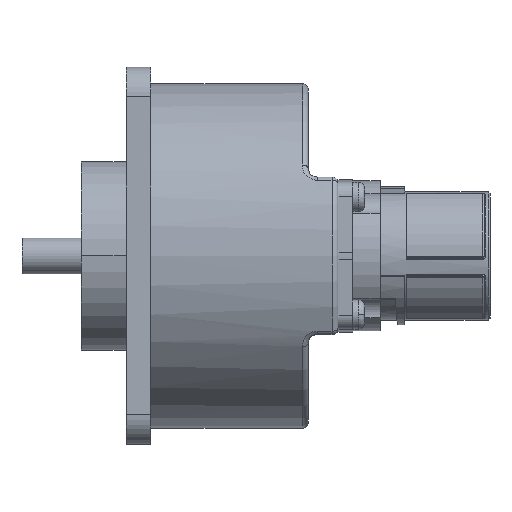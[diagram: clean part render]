
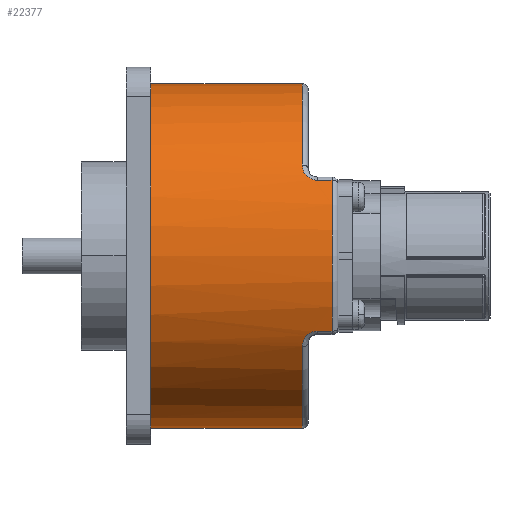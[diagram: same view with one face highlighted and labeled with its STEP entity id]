
A CAD part, top view. The second image highlights one B-rep face of the part: STEP entity #22377.
In plain terms, the highlighted cylindrical face has radius 29 mm (diameter 58 mm), a partial arc.
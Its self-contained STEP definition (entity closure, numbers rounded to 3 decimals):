
#47 = LINE ( 'NONE', #12516, #11815 ) ;
#410 = ORIENTED_EDGE ( 'NONE', *, *, #21523, .T. ) ;
#461 = CARTESIAN_POINT ( 'NONE',  ( 33.568, 10.146, 24.65 ) ) ;
#544 = CARTESIAN_POINT ( 'NONE',  ( 35.187, 12.576, 25.999 ) ) ;
#799 = DIRECTION ( 'NONE',  ( -1., 0., 0. ) ) ;
#810 = CARTESIAN_POINT ( 'NONE',  ( 33.568, 40.393, 24.84 ) ) ;
#1457 = CIRCLE ( 'NONE', #22336, 29. ) ;
#1746 = DIRECTION ( 'NONE',  ( 1., 0., 0. ) ) ;
#2187 = CARTESIAN_POINT ( 'NONE',  ( 33.568, 10.146, 24.65 ) ) ;
#2305 = B_SPLINE_CURVE_WITH_KNOTS ( 'NONE', 3,
 ( #2187, #20047, #4062, #16431, #7796, #14669, #5804, #14911, #21784, #6045, #11168, #544, #7674, #14782, #23049, #15273 ),
 .UNSPECIFIED., .F., .F.,
 ( 4, 2, 2, 2, 2, 2, 2, 4 ),
 ( 0., 0.001, 0.002, 0.002, 0.003, 0.003, 0.004, 0.004 ),
 .UNSPECIFIED. ) ;
#2562 = VERTEX_POINT ( 'NONE', #14933 ) ;
#2815 = DIRECTION ( 'NONE',  ( -1., 0., 0. ) ) ;
#2820 = DIRECTION ( 'NONE',  ( 1., 0., 0. ) ) ;
#2923 = CARTESIAN_POINT ( 'NONE',  ( 34.33, 38.831, 25.715 ) ) ;
#3039 = EDGE_CURVE ( 'NONE', #16220, #9810, #47, .T. ) ;
#3046 = DIRECTION ( 'NONE',  ( 0., 1., 0. ) ) ;
#3143 = CARTESIAN_POINT ( 'NONE',  ( 33.619, 40.088, 25.021 ) ) ;
#3304 = CARTESIAN_POINT ( 'NONE',  ( 36.068, 38.111, 26.077 ) ) ;
#3323 = AXIS2_PLACEMENT_3D ( 'NONE', #6547, #4910, #3046 ) ;
#3652 = AXIS2_PLACEMENT_3D ( 'NONE', #11288, #799, #18427 ) ;
#4062 = CARTESIAN_POINT ( 'NONE',  ( 33.619, 10.756, 25.02 ) ) ;
#4308 = VERTEX_POINT ( 'NONE', #6941 ) ;
#4429 = ORIENTED_EDGE ( 'NONE', *, *, #18280, .F. ) ;
#4910 = DIRECTION ( 'NONE',  ( -1., 0., 0. ) ) ;
#4934 = DIRECTION ( 'NONE',  ( -1., 0., 0. ) ) ;
#5143 = AXIS2_PLACEMENT_3D ( 'NONE', #14001, #6895, #10268 ) ;
#5348 = VERTEX_POINT ( 'NONE', #13373 ) ;
#5357 = ORIENTED_EDGE ( 'NONE', *, *, #3039, .T. ) ;
#5804 = CARTESIAN_POINT ( 'NONE',  ( 34.106, 11.76, 25.58 ) ) ;
#5923 = VERTEX_POINT ( 'NONE', #461 ) ;
#6045 = CARTESIAN_POINT ( 'NONE',  ( 34.722, 12.336, 25.879 ) ) ;
#6093 = CARTESIAN_POINT ( 'NONE',  ( 38.568, 38.111, 26.077 ) ) ;
#6547 = CARTESIAN_POINT ( 'NONE',  ( 33.568, 25.423, 0. ) ) ;
#6895 = DIRECTION ( 'NONE',  ( -1., 0., 0. ) ) ;
#6921 = ORIENTED_EDGE ( 'NONE', *, *, #22015, .T. ) ;
#6941 = CARTESIAN_POINT ( 'NONE',  ( 8.068, 54.423, 0. ) ) ;
#7674 = CARTESIAN_POINT ( 'NONE',  ( 35.358, 12.636, 26.029 ) ) ;
#7796 = CARTESIAN_POINT ( 'NONE',  ( 33.848, 11.348, 25.356 ) ) ;
#8170 = CARTESIAN_POINT ( 'NONE',  ( 34.11, 39.081, 25.583 ) ) ;
#8213 = CARTESIAN_POINT ( 'NONE',  ( 33.568, 40.7, 24.65 ) ) ;
#8387 = VERTEX_POINT ( 'NONE', #16170 ) ;
#8404 = VERTEX_POINT ( 'NONE', #21753 ) ;
#8538 = CYLINDRICAL_SURFACE ( 'NONE', #19693, 29. ) ;
#8756 = CARTESIAN_POINT ( 'NONE',  ( 34.568, 25.423, 0. ) ) ;
#9561 = LINE ( 'NONE', #18808, #17237 ) ;
#9678 = ORIENTED_EDGE ( 'NONE', *, *, #19368, .T. ) ;
#9787 = CARTESIAN_POINT ( 'NONE',  ( 34.727, 38.507, 25.881 ) ) ;
#9810 = VERTEX_POINT ( 'NONE', #3304 ) ;
#9932 = ORIENTED_EDGE ( 'NONE', *, *, #21289, .T. ) ;
#10036 = EDGE_CURVE ( 'NONE', #8404, #4308, #9561, .T. ) ;
#10256 = CARTESIAN_POINT ( 'NONE',  ( 35.71, 38.131, 26.068 ) ) ;
#10268 = DIRECTION ( 'NONE',  ( 0., 1., 0. ) ) ;
#10287 = FACE_OUTER_BOUND ( 'NONE', #12235, .T. ) ;
#11060 = EDGE_CURVE ( 'NONE', #4308, #5348, #1457, .T. ) ;
#11168 = CARTESIAN_POINT ( 'NONE',  ( 34.869, 12.426, 25.924 ) ) ;
#11247 = LINE ( 'NONE', #12882, #20784 ) ;
#11288 = CARTESIAN_POINT ( 'NONE',  ( 38.568, 25.423, 0. ) ) ;
#11815 = VECTOR ( 'NONE', #12173, 1000. ) ;
#12025 = DIRECTION ( 'NONE',  ( 0., 1., 0. ) ) ;
#12173 = DIRECTION ( 'NONE',  ( -1., 0., 0. ) ) ;
#12235 = EDGE_LOOP ( 'NONE', ( #9678, #16950, #16079, #4429, #13274, #6921, #9932, #410, #5357, #14944 ) ) ;
#12516 = CARTESIAN_POINT ( 'NONE',  ( 34.568, 38.111, 26.077 ) ) ;
#12882 = CARTESIAN_POINT ( 'NONE',  ( 34.568, -3.577, 0. ) ) ;
#13274 = ORIENTED_EDGE ( 'NONE', *, *, #22769, .T. ) ;
#13373 = CARTESIAN_POINT ( 'NONE',  ( 8.068, -3.577, 0. ) ) ;
#13427 = CARTESIAN_POINT ( 'NONE',  ( 33.782, 39.64, 25.277 ) ) ;
#13773 = CARTESIAN_POINT ( 'NONE',  ( 35.363, 38.209, 26.029 ) ) ;
#14001 = CARTESIAN_POINT ( 'NONE',  ( 33.568, 25.423, 0. ) ) ;
#14669 = CARTESIAN_POINT ( 'NONE',  ( 34.011, 11.627, 25.509 ) ) ;
#14782 = CARTESIAN_POINT ( 'NONE',  ( 35.705, 12.715, 26.067 ) ) ;
#14911 = CARTESIAN_POINT ( 'NONE',  ( 34.324, 12.01, 25.712 ) ) ;
#14933 = CARTESIAN_POINT ( 'NONE',  ( 38.568, 12.736, 26.077 ) ) ;
#14944 = ORIENTED_EDGE ( 'NONE', *, *, #17608, .T. ) ;
#15170 = CARTESIAN_POINT ( 'NONE',  ( 36.068, 38.111, 26.077 ) ) ;
#15189 = VERTEX_POINT ( 'NONE', #8213 ) ;
#15200 = CIRCLE ( 'NONE', #5143, 29. ) ;
#15255 = B_SPLINE_CURVE_WITH_KNOTS ( 'NONE', 3,
 ( #15170, #22167, #10256, #13773, #22522, #22294, #9787, #15519, #2923, #8170, #20891, #20423, #13427, #3143, #810, #20662 ),
 .UNSPECIFIED., .F., .F.,
 ( 4, 2, 2, 2, 2, 2, 2, 4 ),
 ( 0., 0.001, 0.001, 0.002, 0.002, 0.003, 0.003, 0.004 ),
 .UNSPECIFIED. ) ;
#15273 = CARTESIAN_POINT ( 'NONE',  ( 36.068, 12.736, 26.077 ) ) ;
#15519 = CARTESIAN_POINT ( 'NONE',  ( 34.453, 38.716, 25.774 ) ) ;
#15889 = DIRECTION ( 'NONE',  ( 0., -1., 0. ) ) ;
#16079 = ORIENTED_EDGE ( 'NONE', *, *, #11060, .T. ) ;
#16170 = CARTESIAN_POINT ( 'NONE',  ( 36.068, 12.736, 26.077 ) ) ;
#16220 = VERTEX_POINT ( 'NONE', #6093 ) ;
#16281 = DIRECTION ( 'NONE',  ( -1., 0., 0. ) ) ;
#16323 = CIRCLE ( 'NONE', #3652, 29. ) ;
#16431 = CARTESIAN_POINT ( 'NONE',  ( 33.779, 11.201, 25.274 ) ) ;
#16950 = ORIENTED_EDGE ( 'NONE', *, *, #10036, .T. ) ;
#17066 = LINE ( 'NONE', #19273, #20814 ) ;
#17237 = VECTOR ( 'NONE', #2815, 1000. ) ;
#17608 = EDGE_CURVE ( 'NONE', #9810, #15189, #15255, .T. ) ;
#17640 = CARTESIAN_POINT ( 'NONE',  ( 8.068, 25.423, 0. ) ) ;
#18280 = EDGE_CURVE ( 'NONE', #22043, #5348, #11247, .T. ) ;
#18427 = DIRECTION ( 'NONE',  ( 0., 1., 0. ) ) ;
#18808 = CARTESIAN_POINT ( 'NONE',  ( 34.568, 54.423, 0. ) ) ;
#19273 = CARTESIAN_POINT ( 'NONE',  ( 34.568, 12.736, 26.077 ) ) ;
#19368 = EDGE_CURVE ( 'NONE', #15189, #8404, #15200, .T. ) ;
#19693 = AXIS2_PLACEMENT_3D ( 'NONE', #8756, #4934, #15889 ) ;
#20047 = CARTESIAN_POINT ( 'NONE',  ( 33.568, 10.454, 24.84 ) ) ;
#20423 = CARTESIAN_POINT ( 'NONE',  ( 33.849, 39.496, 25.357 ) ) ;
#20662 = CARTESIAN_POINT ( 'NONE',  ( 33.568, 40.7, 24.65 ) ) ;
#20784 = VECTOR ( 'NONE', #16281, 1000. ) ;
#20814 = VECTOR ( 'NONE', #2820, 1000. ) ;
#20891 = CARTESIAN_POINT ( 'NONE',  ( 34.013, 39.217, 25.51 ) ) ;
#21289 = EDGE_CURVE ( 'NONE', #8387, #2562, #17066, .T. ) ;
#21523 = EDGE_CURVE ( 'NONE', #2562, #16220, #16323, .T. ) ;
#21753 = CARTESIAN_POINT ( 'NONE',  ( 33.568, 54.423, 0. ) ) ;
#21784 = CARTESIAN_POINT ( 'NONE',  ( 34.45, 12.128, 25.773 ) ) ;
#21951 = CIRCLE ( 'NONE', #3323, 29. ) ;
#22015 = EDGE_CURVE ( 'NONE', #5923, #8387, #2305, .T. ) ;
#22043 = VERTEX_POINT ( 'NONE', #22263 ) ;
#22167 = CARTESIAN_POINT ( 'NONE',  ( 35.887, 38.111, 26.077 ) ) ;
#22263 = CARTESIAN_POINT ( 'NONE',  ( 33.568, -3.577, 0. ) ) ;
#22294 = CARTESIAN_POINT ( 'NONE',  ( 34.876, 38.417, 25.926 ) ) ;
#22336 = AXIS2_PLACEMENT_3D ( 'NONE', #17640, #1746, #12025 ) ;
#22377 = ADVANCED_FACE ( 'NONE', ( #10287 ), #8538, .T. ) ;
#22522 = CARTESIAN_POINT ( 'NONE',  ( 35.192, 38.268, 26. ) ) ;
#22769 = EDGE_CURVE ( 'NONE', #22043, #5923, #21951, .T. ) ;
#23049 = CARTESIAN_POINT ( 'NONE',  ( 35.886, 12.736, 26.077 ) ) ;
